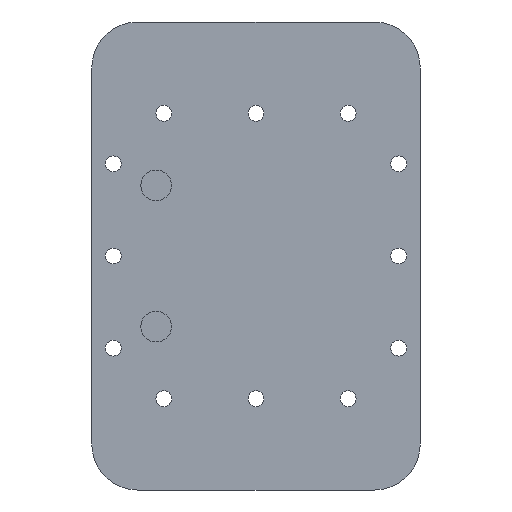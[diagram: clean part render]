
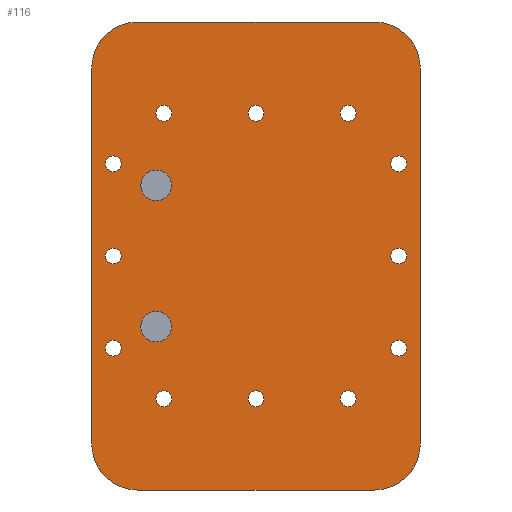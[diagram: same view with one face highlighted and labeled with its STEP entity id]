
A CAD part, front view. The second image highlights one B-rep face of the part: STEP entity #116.
In plain terms, the highlighted planar face has unit normal (0, -1, 0).
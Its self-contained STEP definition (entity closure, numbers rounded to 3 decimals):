
#116=ADVANCED_FACE('',(#262,#263,#264,#265,#266,#267,#268,#269,#270,#271,
#272,#273,#274,#275,#276),#192,.F.);
#192=PLANE('',#1116);
#215=LINE('',#1661,#231);
#216=LINE('',#1666,#232);
#217=LINE('',#1670,#233);
#218=LINE('',#1674,#234);
#231=VECTOR('',#1317,1.);
#232=VECTOR('',#1320,1.);
#233=VECTOR('',#1323,1.);
#234=VECTOR('',#1326,1.);
#262=FACE_BOUND('',#427,.T.);
#263=FACE_BOUND('',#428,.T.);
#264=FACE_BOUND('',#429,.T.);
#265=FACE_BOUND('',#430,.T.);
#266=FACE_BOUND('',#431,.T.);
#267=FACE_BOUND('',#432,.T.);
#268=FACE_BOUND('',#433,.T.);
#269=FACE_BOUND('',#434,.T.);
#270=FACE_BOUND('',#435,.T.);
#271=FACE_BOUND('',#436,.T.);
#272=FACE_BOUND('',#437,.T.);
#273=FACE_BOUND('',#438,.T.);
#274=FACE_BOUND('',#439,.T.);
#275=FACE_BOUND('',#440,.T.);
#276=FACE_BOUND('',#441,.T.);
#427=EDGE_LOOP('',(#602));
#428=EDGE_LOOP('',(#603));
#429=EDGE_LOOP('',(#604));
#430=EDGE_LOOP('',(#605));
#431=EDGE_LOOP('',(#606));
#432=EDGE_LOOP('',(#607));
#433=EDGE_LOOP('',(#608));
#434=EDGE_LOOP('',(#609));
#435=EDGE_LOOP('',(#610));
#436=EDGE_LOOP('',(#611));
#437=EDGE_LOOP('',(#612));
#438=EDGE_LOOP('',(#613));
#439=EDGE_LOOP('',(#614));
#440=EDGE_LOOP('',(#615));
#441=EDGE_LOOP('',(#616,#617,#618,#619,#620,#621,#622,#623));
#602=ORIENTED_EDGE('',*,*,#910,.T.);
#603=ORIENTED_EDGE('',*,*,#911,.T.);
#604=ORIENTED_EDGE('',*,*,#912,.T.);
#605=ORIENTED_EDGE('',*,*,#913,.T.);
#606=ORIENTED_EDGE('',*,*,#914,.T.);
#607=ORIENTED_EDGE('',*,*,#915,.T.);
#608=ORIENTED_EDGE('',*,*,#916,.T.);
#609=ORIENTED_EDGE('',*,*,#917,.T.);
#610=ORIENTED_EDGE('',*,*,#918,.T.);
#611=ORIENTED_EDGE('',*,*,#919,.T.);
#612=ORIENTED_EDGE('',*,*,#920,.T.);
#613=ORIENTED_EDGE('',*,*,#921,.T.);
#614=ORIENTED_EDGE('',*,*,#922,.T.);
#615=ORIENTED_EDGE('',*,*,#923,.T.);
#616=ORIENTED_EDGE('',*,*,#924,.T.);
#617=ORIENTED_EDGE('',*,*,#925,.T.);
#618=ORIENTED_EDGE('',*,*,#926,.T.);
#619=ORIENTED_EDGE('',*,*,#927,.T.);
#620=ORIENTED_EDGE('',*,*,#928,.T.);
#621=ORIENTED_EDGE('',*,*,#929,.T.);
#622=ORIENTED_EDGE('',*,*,#930,.T.);
#623=ORIENTED_EDGE('',*,*,#931,.T.);
#810=VERTEX_POINT('',#1634);
#811=VERTEX_POINT('',#1636);
#812=VERTEX_POINT('',#1638);
#813=VERTEX_POINT('',#1640);
#814=VERTEX_POINT('',#1642);
#815=VERTEX_POINT('',#1644);
#816=VERTEX_POINT('',#1646);
#817=VERTEX_POINT('',#1648);
#818=VERTEX_POINT('',#1650);
#819=VERTEX_POINT('',#1652);
#820=VERTEX_POINT('',#1654);
#821=VERTEX_POINT('',#1656);
#822=VERTEX_POINT('',#1658);
#823=VERTEX_POINT('',#1660);
#824=VERTEX_POINT('',#1662);
#825=VERTEX_POINT('',#1663);
#826=VERTEX_POINT('',#1665);
#827=VERTEX_POINT('',#1667);
#828=VERTEX_POINT('',#1669);
#829=VERTEX_POINT('',#1671);
#830=VERTEX_POINT('',#1673);
#831=VERTEX_POINT('',#1675);
#910=EDGE_CURVE('',#810,#810,#1010,.T.);
#911=EDGE_CURVE('',#811,#811,#1011,.T.);
#912=EDGE_CURVE('',#812,#812,#1012,.T.);
#913=EDGE_CURVE('',#813,#813,#1013,.T.);
#914=EDGE_CURVE('',#814,#814,#1014,.T.);
#915=EDGE_CURVE('',#815,#815,#1015,.T.);
#916=EDGE_CURVE('',#816,#816,#1016,.T.);
#917=EDGE_CURVE('',#817,#817,#1017,.T.);
#918=EDGE_CURVE('',#818,#818,#1018,.T.);
#919=EDGE_CURVE('',#819,#819,#1019,.T.);
#920=EDGE_CURVE('',#820,#820,#1020,.T.);
#921=EDGE_CURVE('',#821,#821,#1021,.T.);
#922=EDGE_CURVE('',#822,#822,#1022,.T.);
#923=EDGE_CURVE('',#823,#823,#1023,.T.);
#924=EDGE_CURVE('',#824,#825,#215,.T.);
#925=EDGE_CURVE('',#825,#826,#1024,.T.);
#926=EDGE_CURVE('',#826,#827,#216,.T.);
#927=EDGE_CURVE('',#827,#828,#1025,.T.);
#928=EDGE_CURVE('',#828,#829,#217,.T.);
#929=EDGE_CURVE('',#829,#830,#1026,.T.);
#930=EDGE_CURVE('',#830,#831,#218,.T.);
#931=EDGE_CURVE('',#831,#824,#1027,.T.);
#1010=CIRCLE('',#1098,5.);
#1011=CIRCLE('',#1099,5.);
#1012=CIRCLE('',#1100,2.6);
#1013=CIRCLE('',#1101,2.6);
#1014=CIRCLE('',#1102,2.6);
#1015=CIRCLE('',#1103,2.6);
#1016=CIRCLE('',#1104,2.6);
#1017=CIRCLE('',#1105,2.6);
#1018=CIRCLE('',#1106,2.6);
#1019=CIRCLE('',#1107,2.6);
#1020=CIRCLE('',#1108,2.6);
#1021=CIRCLE('',#1109,2.6);
#1022=CIRCLE('',#1110,2.6);
#1023=CIRCLE('',#1111,2.6);
#1024=CIRCLE('',#1112,15.);
#1025=CIRCLE('',#1113,15.);
#1026=CIRCLE('',#1114,15.);
#1027=CIRCLE('',#1115,15.);
#1098=AXIS2_PLACEMENT_3D('',#1633,#1289,#1290);
#1099=AXIS2_PLACEMENT_3D('',#1635,#1291,#1292);
#1100=AXIS2_PLACEMENT_3D('',#1637,#1293,#1294);
#1101=AXIS2_PLACEMENT_3D('',#1639,#1295,#1296);
#1102=AXIS2_PLACEMENT_3D('',#1641,#1297,#1298);
#1103=AXIS2_PLACEMENT_3D('',#1643,#1299,#1300);
#1104=AXIS2_PLACEMENT_3D('',#1645,#1301,#1302);
#1105=AXIS2_PLACEMENT_3D('',#1647,#1303,#1304);
#1106=AXIS2_PLACEMENT_3D('',#1649,#1305,#1306);
#1107=AXIS2_PLACEMENT_3D('',#1651,#1307,#1308);
#1108=AXIS2_PLACEMENT_3D('',#1653,#1309,#1310);
#1109=AXIS2_PLACEMENT_3D('',#1655,#1311,#1312);
#1110=AXIS2_PLACEMENT_3D('',#1657,#1313,#1314);
#1111=AXIS2_PLACEMENT_3D('',#1659,#1315,#1316);
#1112=AXIS2_PLACEMENT_3D('',#1664,#1318,#1319);
#1113=AXIS2_PLACEMENT_3D('',#1668,#1321,#1322);
#1114=AXIS2_PLACEMENT_3D('',#1672,#1324,#1325);
#1115=AXIS2_PLACEMENT_3D('',#1676,#1327,#1328);
#1116=AXIS2_PLACEMENT_3D('',#1677,#1329,#1330);
#1289=DIRECTION('',(0.,1.,0.));
#1290=DIRECTION('',(0.,0.,1.));
#1291=DIRECTION('',(0.,1.,0.));
#1292=DIRECTION('',(0.,0.,1.));
#1293=DIRECTION('',(0.,1.,0.));
#1294=DIRECTION('',(0.,0.,1.));
#1295=DIRECTION('',(0.,1.,0.));
#1296=DIRECTION('',(0.,0.,1.));
#1297=DIRECTION('',(0.,1.,0.));
#1298=DIRECTION('',(0.,0.,1.));
#1299=DIRECTION('',(0.,1.,0.));
#1300=DIRECTION('',(0.,0.,1.));
#1301=DIRECTION('',(0.,1.,0.));
#1302=DIRECTION('',(0.,0.,1.));
#1303=DIRECTION('',(0.,1.,0.));
#1304=DIRECTION('',(0.,0.,1.));
#1305=DIRECTION('',(0.,1.,0.));
#1306=DIRECTION('',(0.,0.,1.));
#1307=DIRECTION('',(0.,1.,0.));
#1308=DIRECTION('',(0.,0.,1.));
#1309=DIRECTION('',(0.,1.,0.));
#1310=DIRECTION('',(0.,0.,1.));
#1311=DIRECTION('',(0.,1.,0.));
#1312=DIRECTION('',(0.,0.,1.));
#1313=DIRECTION('',(0.,1.,0.));
#1314=DIRECTION('',(0.,0.,1.));
#1315=DIRECTION('',(0.,1.,0.));
#1316=DIRECTION('',(0.,0.,1.));
#1317=DIRECTION('',(1.,0.,0.));
#1318=DIRECTION('',(0.,-1.,0.));
#1319=DIRECTION('',(0.,0.,1.));
#1320=DIRECTION('',(0.,0.,1.));
#1321=DIRECTION('',(0.,-1.,0.));
#1322=DIRECTION('',(0.,0.,1.));
#1323=DIRECTION('',(-1.,0.,0.));
#1324=DIRECTION('',(0.,-1.,0.));
#1325=DIRECTION('',(0.,0.,1.));
#1326=DIRECTION('',(0.,0.,-1.));
#1327=DIRECTION('',(0.,-1.,0.));
#1328=DIRECTION('',(0.,0.,1.));
#1329=DIRECTION('',(0.,1.,0.));
#1330=DIRECTION('',(1.,0.,0.));
#1633=CARTESIAN_POINT('',(-32.214,339.15,23.));
#1634=CARTESIAN_POINT('',(-32.214,339.15,28.));
#1635=CARTESIAN_POINT('',(-32.214,339.15,-23.));
#1636=CARTESIAN_POINT('',(-32.214,339.15,-18.));
#1637=CARTESIAN_POINT('',(46.787,339.15,30.));
#1638=CARTESIAN_POINT('',(46.787,339.15,32.6));
#1639=CARTESIAN_POINT('',(0.286,339.15,46.5));
#1640=CARTESIAN_POINT('',(0.286,339.15,49.1));
#1641=CARTESIAN_POINT('',(30.287,339.15,-46.5));
#1642=CARTESIAN_POINT('',(30.287,339.15,-43.9));
#1643=CARTESIAN_POINT('',(-46.214,339.15,-30.));
#1644=CARTESIAN_POINT('',(-46.214,339.15,-27.4));
#1645=CARTESIAN_POINT('',(-46.214,339.15,0.));
#1646=CARTESIAN_POINT('',(-46.214,339.15,2.6));
#1647=CARTESIAN_POINT('',(-29.714,339.15,46.5));
#1648=CARTESIAN_POINT('',(-29.714,339.15,49.1));
#1649=CARTESIAN_POINT('',(-46.214,339.15,30.));
#1650=CARTESIAN_POINT('',(-46.214,339.15,32.6));
#1651=CARTESIAN_POINT('',(0.286,339.15,-46.5));
#1652=CARTESIAN_POINT('',(0.286,339.15,-43.9));
#1653=CARTESIAN_POINT('',(-29.714,339.15,-46.5));
#1654=CARTESIAN_POINT('',(-29.714,339.15,-43.9));
#1655=CARTESIAN_POINT('',(46.787,339.15,0.));
#1656=CARTESIAN_POINT('',(46.787,339.15,2.6));
#1657=CARTESIAN_POINT('',(46.787,339.15,-30.));
#1658=CARTESIAN_POINT('',(46.787,339.15,-27.4));
#1659=CARTESIAN_POINT('',(30.287,339.15,46.5));
#1660=CARTESIAN_POINT('',(30.287,339.15,49.1));
#1661=CARTESIAN_POINT('',(36.287,339.15,-76.2));
#1662=CARTESIAN_POINT('',(-38.214,339.15,-76.2));
#1663=CARTESIAN_POINT('',(38.787,339.15,-76.2));
#1664=CARTESIAN_POINT('',(38.787,339.15,-61.2));
#1665=CARTESIAN_POINT('',(53.787,339.15,-61.2));
#1666=CARTESIAN_POINT('',(53.787,339.15,36.));
#1667=CARTESIAN_POINT('',(53.787,339.15,61.2));
#1668=CARTESIAN_POINT('',(38.787,339.15,61.2));
#1669=CARTESIAN_POINT('',(38.787,339.15,76.2));
#1670=CARTESIAN_POINT('',(-35.714,339.15,76.2));
#1671=CARTESIAN_POINT('',(-38.214,339.15,76.2));
#1672=CARTESIAN_POINT('',(-38.214,339.15,61.2));
#1673=CARTESIAN_POINT('',(-53.214,339.15,61.2));
#1674=CARTESIAN_POINT('',(-53.214,339.15,-36.));
#1675=CARTESIAN_POINT('',(-53.214,339.15,-61.2));
#1676=CARTESIAN_POINT('',(-38.214,339.15,-61.2));
#1677=CARTESIAN_POINT('',(0.287,339.15,0.));
